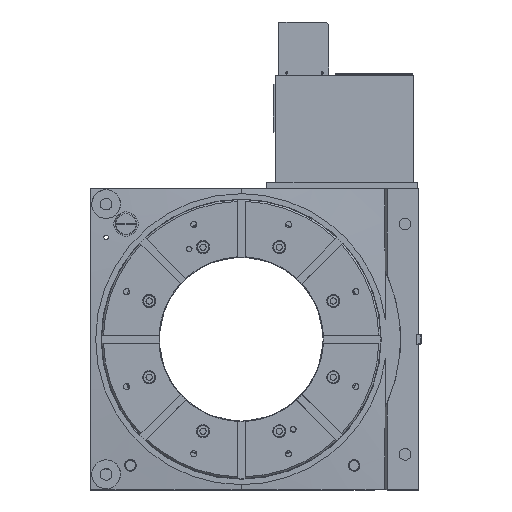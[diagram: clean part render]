
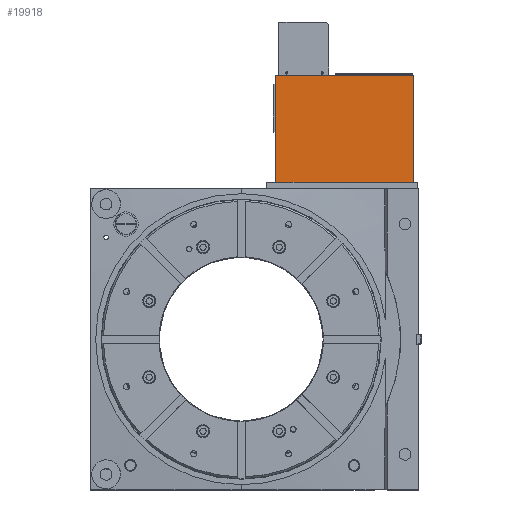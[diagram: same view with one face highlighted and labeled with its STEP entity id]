
A CAD part, top view. The second image highlights one B-rep face of the part: STEP entity #19918.
In plain terms, the highlighted planar face has unit normal (0, 0, 1).
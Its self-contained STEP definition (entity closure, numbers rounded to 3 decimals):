
#336 = ORIENTED_EDGE ( 'NONE', *, *, #23091, .T. ) ;
#640 = LINE ( 'NONE', #24629, #15858 ) ;
#971 = EDGE_CURVE ( 'NONE', #12584, #16460, #21952, .T. ) ;
#2054 = DIRECTION ( 'NONE',  ( 1., 0., 0. ) ) ;
#4355 = DIRECTION ( 'NONE',  ( 0., -1., 0. ) ) ;
#4528 = CARTESIAN_POINT ( 'NONE',  ( 389.4, 594., 243.4 ) ) ;
#4795 = EDGE_CURVE ( 'NONE', #15265, #12584, #14460, .T. ) ;
#5089 = VECTOR ( 'NONE', #4355, 1000. ) ;
#5964 = VECTOR ( 'NONE', #2054, 1000. ) ;
#6869 = EDGE_LOOP ( 'NONE', ( #19434, #8760, #11024, #336 ) ) ;
#8760 = ORIENTED_EDGE ( 'NONE', *, *, #971, .F. ) ;
#10048 = CARTESIAN_POINT ( 'NONE',  ( 77.8, 596.3, 243.4 ) ) ;
#11024 = ORIENTED_EDGE ( 'NONE', *, *, #4795, .F. ) ;
#11945 = PLANE ( 'NONE',  #20647 ) ;
#12103 = DIRECTION ( 'NONE',  ( 0., 0., -1. ) ) ;
#12584 = VERTEX_POINT ( 'NONE', #18272 ) ;
#13806 = VECTOR ( 'NONE', #15948, 1000. ) ;
#14460 = LINE ( 'NONE', #10048, #5964 ) ;
#15265 = VERTEX_POINT ( 'NONE', #19739 ) ;
#15858 = VECTOR ( 'NONE', #19745, 1000. ) ;
#15948 = DIRECTION ( 'NONE',  ( 1., 0., 0. ) ) ;
#16460 = VERTEX_POINT ( 'NONE', #18795 ) ;
#18272 = CARTESIAN_POINT ( 'NONE',  ( 389.4, 596.3, 243.4 ) ) ;
#18795 = CARTESIAN_POINT ( 'NONE',  ( 389.4, 354., 243.4 ) ) ;
#18861 = EDGE_CURVE ( 'NONE', #20065, #16460, #23437, .T. ) ;
#19434 = ORIENTED_EDGE ( 'NONE', *, *, #18861, .T. ) ;
#19739 = CARTESIAN_POINT ( 'NONE',  ( 77.8, 596.3, 243.4 ) ) ;
#19745 = DIRECTION ( 'NONE',  ( 0., -1., 0. ) ) ;
#19918 = ADVANCED_FACE ( 'NONE', ( #24630 ), #11945, .F. ) ;
#20065 = VERTEX_POINT ( 'NONE', #22844 ) ;
#20647 = AXIS2_PLACEMENT_3D ( 'NONE', #24466, #12103, #22026 ) ;
#21952 = LINE ( 'NONE', #4528, #5089 ) ;
#22026 = DIRECTION ( 'NONE',  ( 0., 1., 0. ) ) ;
#22844 = CARTESIAN_POINT ( 'NONE',  ( 77.8, 354., 243.4 ) ) ;
#23091 = EDGE_CURVE ( 'NONE', #15265, #20065, #640, .T. ) ;
#23437 = LINE ( 'NONE', #30451, #13806 ) ;
#24466 = CARTESIAN_POINT ( 'NONE',  ( 80.1, 594., 243.4 ) ) ;
#24629 = CARTESIAN_POINT ( 'NONE',  ( 77.8, 594., 243.4 ) ) ;
#24630 = FACE_OUTER_BOUND ( 'NONE', #6869, .T. ) ;
#30451 = CARTESIAN_POINT ( 'NONE',  ( 80.1, 354., 243.4 ) ) ;
